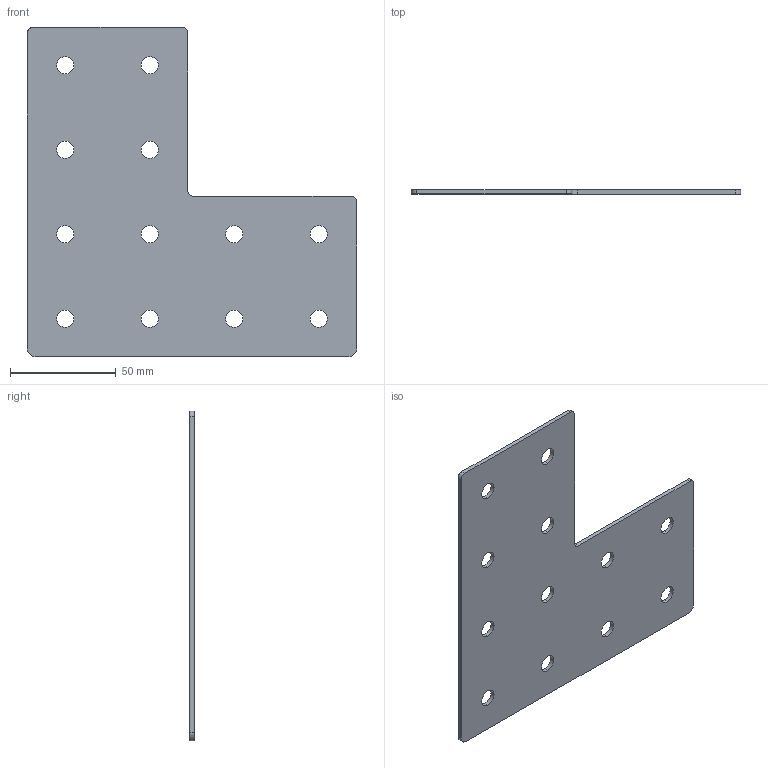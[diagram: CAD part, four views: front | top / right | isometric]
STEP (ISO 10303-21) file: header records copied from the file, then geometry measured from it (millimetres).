
FILE_DESCRIPTION (( 'STEP AP203' ), '1' );
FILE_NAME ('ﾃ-12-40.STEP', '2016-07-20T13:14:49', ( '' ), ( '' ), 'SwSTEP 2.0', 'SolidWorks 2014', '' );
FILE_SCHEMA (( 'CONFIG_CONTROL_DESIGN' ));
Length unit declared in the file: millimetre
Products named in the file (1): ﾃ-12-40
Bounding box: 156 x 2 x 156 mm (x, y, z)
Volume: 34586.3 mm3; surface area: 36437.1 mm2
Topology: 1 solids, 1 shells, 38 faces, 108 edges, 72 vertices
Faces by surface type: cylinder 30, plane 8
Entity records: 1397 total; most frequent: DIRECTION 246, CARTESIAN_POINT 219, ORIENTED_EDGE 216, EDGE_CURVE 108, AXIS2_PLACEMENT_3D 99, VERTEX_POINT 72, EDGE_LOOP 62, CIRCLE 60
